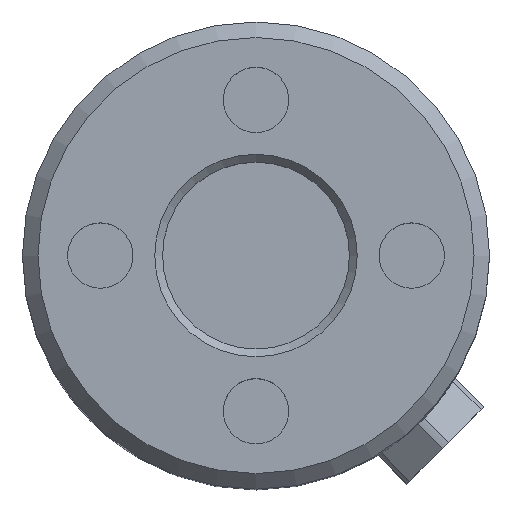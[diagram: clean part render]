
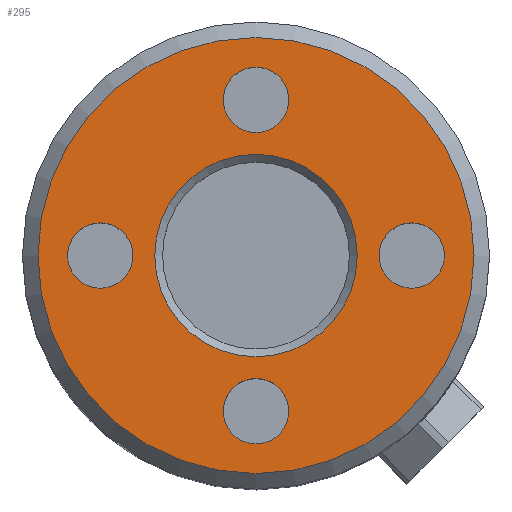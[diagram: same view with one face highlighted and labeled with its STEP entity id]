
A CAD part, top view. The second image highlights one B-rep face of the part: STEP entity #295.
In plain terms, the highlighted planar face has unit normal (0, 0, 1).
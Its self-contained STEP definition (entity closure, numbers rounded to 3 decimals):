
#295=ADVANCED_FACE('',(#408,#409,#410,#411,#412,#413),#414,.T.);
#408=FACE_OUTER_BOUND('',#657,.T.);
#409=FACE_BOUND('',#658,.T.);
#410=FACE_BOUND('',#659,.T.);
#411=FACE_BOUND('',#660,.T.);
#412=FACE_BOUND('',#661,.T.);
#413=FACE_BOUND('',#662,.T.);
#414=PLANE('',#663);
#657=EDGE_LOOP('',(#885));
#658=EDGE_LOOP('',(#886));
#659=EDGE_LOOP('',(#887));
#660=EDGE_LOOP('',(#888));
#661=EDGE_LOOP('',(#889));
#662=EDGE_LOOP('',(#890));
#663=AXIS2_PLACEMENT_3D('',#891,#892,#893);
#885=ORIENTED_EDGE('',*,*,#1155,.T.);
#886=ORIENTED_EDGE('',*,*,#1131,.T.);
#887=ORIENTED_EDGE('',*,*,#1133,.T.);
#888=ORIENTED_EDGE('',*,*,#1135,.T.);
#889=ORIENTED_EDGE('',*,*,#1137,.T.);
#890=ORIENTED_EDGE('',*,*,#1154,.T.);
#891=CARTESIAN_POINT('',(15.0,0.,61.5));
#892=DIRECTION('',(0.0,0.,1.0));
#893=DIRECTION('',(0.0,-1.0,0.));
#1131=EDGE_CURVE('',#1220,#1220,#1221,.T.);
#1133=EDGE_CURVE('',#1224,#1224,#1225,.T.);
#1135=EDGE_CURVE('',#1228,#1228,#1229,.T.);
#1137=EDGE_CURVE('',#1232,#1232,#1233,.T.);
#1154=EDGE_CURVE('',#1266,#1266,#1267,.T.);
#1155=EDGE_CURVE('',#1268,#1268,#1269,.T.);
#1220=VERTEX_POINT('',#1443);
#1221=CIRCLE('',#1444,2.1);
#1224=VERTEX_POINT('',#1447);
#1225=CIRCLE('',#1448,2.1);
#1228=VERTEX_POINT('',#1451);
#1229=CIRCLE('',#1452,2.1);
#1232=VERTEX_POINT('',#1455);
#1233=CIRCLE('',#1456,2.1);
#1266=VERTEX_POINT('',#1489);
#1267=CIRCLE('',#1490,6.5);
#1268=VERTEX_POINT('',#1491);
#1269=CIRCLE('',#1492,14.0);
#1443=CARTESIAN_POINT('',(-10.0,-2.1,61.5));
#1444=AXIS2_PLACEMENT_3D('',#1690,#1691,#1692);
#1447=CARTESIAN_POINT('',(-2.1,10.,61.5));
#1448=AXIS2_PLACEMENT_3D('',#1696,#1697,#1698);
#1451=CARTESIAN_POINT('',(10.,2.1,61.5));
#1452=AXIS2_PLACEMENT_3D('',#1702,#1703,#1704);
#1455=CARTESIAN_POINT('',(2.1,-10.0,61.5));
#1456=AXIS2_PLACEMENT_3D('',#1708,#1709,#1710);
#1489=CARTESIAN_POINT('',(0.0,6.5,61.5));
#1490=AXIS2_PLACEMENT_3D('',#1759,#1760,#1761);
#1491=CARTESIAN_POINT('',(0.0,-14.0,61.5));
#1492=AXIS2_PLACEMENT_3D('',#1762,#1763,#1764);
#1690=CARTESIAN_POINT('',(-10.0,0.,61.5));
#1691=DIRECTION('',(0.0,0.0,-1.0));
#1692=DIRECTION('',(0.0,-1.0,0.0));
#1696=CARTESIAN_POINT('',(0.,10.,61.5));
#1697=DIRECTION('',(0.0,0.0,-1.0));
#1698=DIRECTION('',(-1.0,0.0,0.0));
#1702=CARTESIAN_POINT('',(10.,0.,61.5));
#1703=DIRECTION('',(0.0,0.0,-1.0));
#1704=DIRECTION('',(0.0,1.0,0.0));
#1708=CARTESIAN_POINT('',(0.,-10.0,61.5));
#1709=DIRECTION('',(0.0,0.0,-1.0));
#1710=DIRECTION('',(1.0,0.0,0.0));
#1759=CARTESIAN_POINT('',(0.0,0.,61.5));
#1760=DIRECTION('',(0.0,0.,-1.0));
#1761=DIRECTION('',(0.0,1.0,0.));
#1762=CARTESIAN_POINT('',(0.0,0.,61.5));
#1763=DIRECTION('',(0.0,0.,1.0));
#1764=DIRECTION('',(0.0,-1.0,0.));
